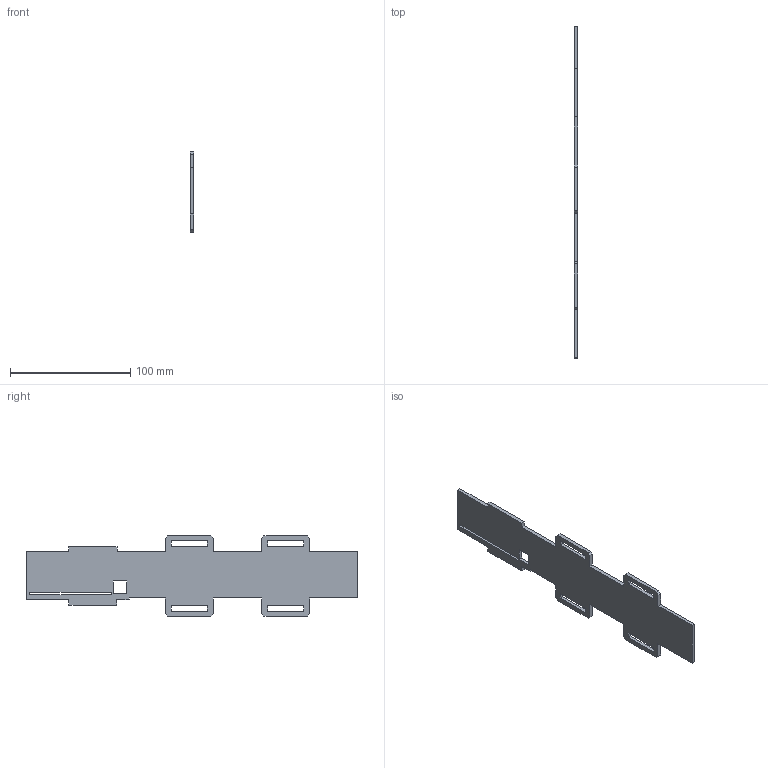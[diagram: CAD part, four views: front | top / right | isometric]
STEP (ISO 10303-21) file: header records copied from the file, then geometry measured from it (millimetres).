
FILE_DESCRIPTION(/* description */ ('STEP AP242 Edition 2','CAx-IF Rec.Pracs.---Representation and Presentation of Product Manufacturing Information (PMI)---4.0---2014-10-13','CAx-IF Rec.Pracs.---3D Tessellated Geometry---0.4---2014-09-14','2;1','CAx-IF Rec.Pracs.---User Defined Attributes---1.5---2016-08-15'),/* implementation_level */ '2;1');
FILE_NAME(/* name */ 'Enclosure - Side 2',/* time_stamp */ '2026-11-16T09:17:37Z',/* author */ (''),/* organization */ (''),/* preprocessor_version */ 'ST-DEVELOPER v20',/* originating_system */ 'ONSHAPE BY PTC INC, 1.223',/* authorisation */ ' ');
FILE_SCHEMA (('AP242_MANAGED_MODEL_BASED_3D_ENGINEERING_MIM_LF { 1 0 10303 442 3 1 4 }'));
Length unit declared in the file: metre
Products named in the file (1): Side 2
Bounding box: 3 x 275.5 x 66.5 mm (x, y, z)
Volume: 37519.3 mm3; surface area: 28639.3 mm2
Topology: 1 solids, 1 shells, 64 faces, 186 edges, 124 vertices
Faces by surface type: plane 64
Entity records: 2116 total; most frequent: CARTESIAN_POINT 375, ORIENTED_EDGE 372, DIRECTION 316, EDGE_CURVE 186, LINE 186, VECTOR 186, VERTEX_POINT 124, EDGE_LOOP 76
